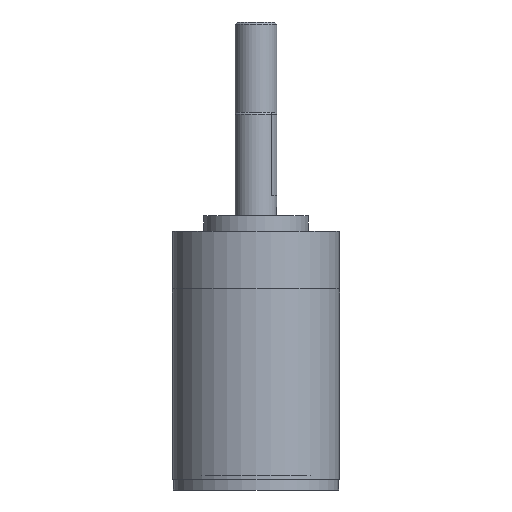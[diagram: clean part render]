
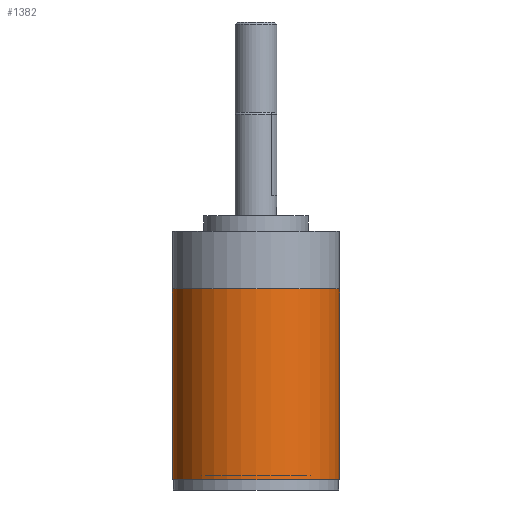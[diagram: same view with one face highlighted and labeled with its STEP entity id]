
A CAD part, left-side view. The second image highlights one B-rep face of the part: STEP entity #1382.
In plain terms, the highlighted cylindrical face has radius 8 mm (diameter 16 mm), a full revolution.
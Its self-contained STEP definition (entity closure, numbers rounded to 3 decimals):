
#1297=CYLINDRICAL_SURFACE('',#4201,8.);
#1382=ADVANCED_FACE('',(#1760,#1761),#1297,.T.);
#1760=FACE_BOUND('',#2020,.T.);
#1761=FACE_BOUND('',#2021,.T.);
#2020=EDGE_LOOP('',(#2415));
#2021=EDGE_LOOP('',(#2416));
#2415=ORIENTED_EDGE('',*,*,#3588,.F.);
#2416=ORIENTED_EDGE('',*,*,#3597,.T.);
#3257=VERTEX_POINT('',#5330);
#3266=VERTEX_POINT('',#5353);
#3588=EDGE_CURVE('',#3257,#3257,#4018,.T.);
#3597=EDGE_CURVE('',#3266,#3266,#4027,.T.);
#4018=CIRCLE('',#4185,8.);
#4027=CIRCLE('',#4199,8.);
#4185=AXIS2_PLACEMENT_3D('',#5329,#4557,#4558);
#4199=AXIS2_PLACEMENT_3D('',#5352,#4585,#4586);
#4201=AXIS2_PLACEMENT_3D('',#5355,#4589,#4590);
#4557=DIRECTION('',(0.,0.,-1.));
#4558=DIRECTION('',(1.,0.,0.));
#4585=DIRECTION('',(0.,0.,-1.));
#4586=DIRECTION('',(1.,0.,0.));
#4589=DIRECTION('',(0.,0.,1.));
#4590=DIRECTION('',(1.,0.,0.));
#5329=CARTESIAN_POINT('',(0.,0.,1.));
#5330=CARTESIAN_POINT('',(8.,0.,1.));
#5352=CARTESIAN_POINT('',(0.,0.,19.199));
#5353=CARTESIAN_POINT('',(8.,0.,19.199));
#5355=CARTESIAN_POINT('',(0.,0.,19.2));
